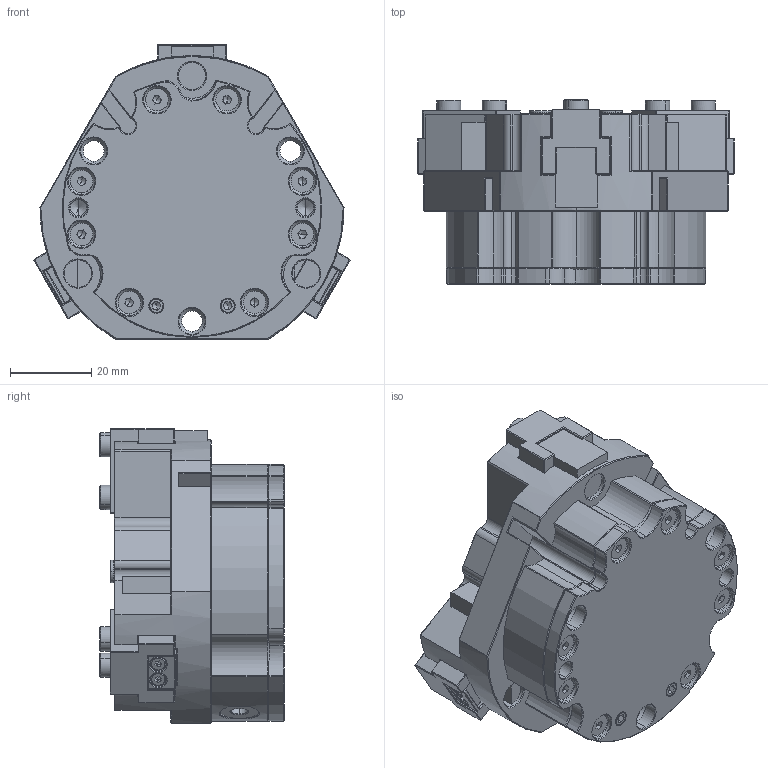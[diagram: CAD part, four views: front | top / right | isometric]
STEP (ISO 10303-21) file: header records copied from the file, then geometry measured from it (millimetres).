
FILE_DESCRIPTION (( 'STEP AP214' ), '1' );
FILE_NAME ('FCT-64A-1×°Åä.STEP', '2024-09-04T00:37:13', ( '' ), ( '' ), 'SwSTEP 2.0', 'SolidWorks 2018', '' );
FILE_SCHEMA (( 'AUTOMOTIVE_DESIGN' ));
Length unit declared in the file: millimetre
Products named in the file (1): FCT-64A-1蚾饜
Bounding box: 78.02 x 45.43 x 72.75 mm (x, y, z)
Volume: 103584.9 mm3; surface area: 34061.6 mm2
Topology: 1 solids, 28 shells, 1759 faces, 4383 edges, 2641 vertices
Faces by surface type: plane 870, cone 502, cylinder 345, torus 40, bspline 2
Entity records: 55971 total; most frequent: CARTESIAN_POINT 13997, DIRECTION 8981, ORIENTED_EDGE 8658, EDGE_CURVE 4329, AXIS2_PLACEMENT_3D 3205, VERTEX_POINT 2641, LINE 2571, VECTOR 2571
